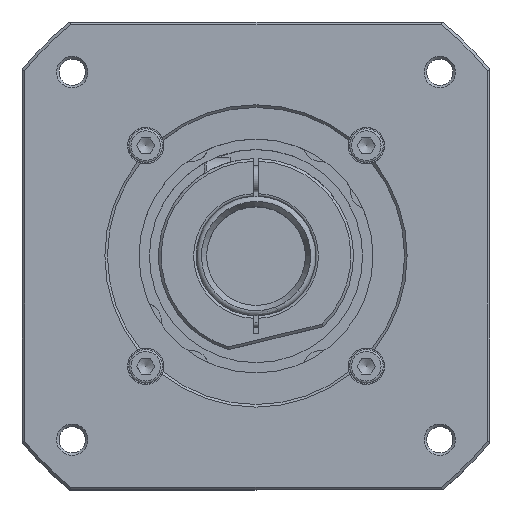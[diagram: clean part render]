
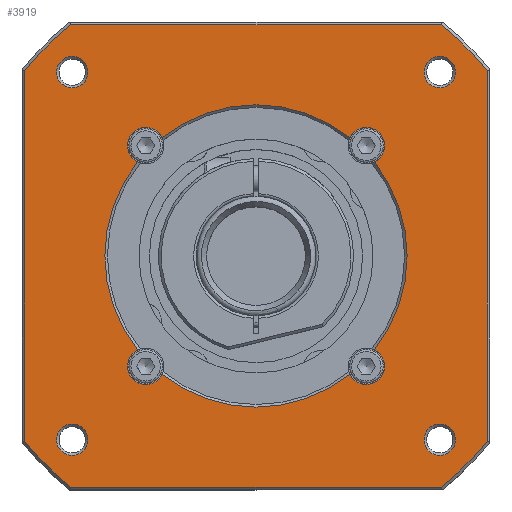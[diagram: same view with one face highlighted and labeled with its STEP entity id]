
A CAD part, top view. The second image highlights one B-rep face of the part: STEP entity #3919.
In plain terms, the highlighted planar face has unit normal (0, 0, 1).
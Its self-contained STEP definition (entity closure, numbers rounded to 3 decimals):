
#3722=CARTESIAN_POINT('',(64.658,70.711,201.85));
#3723=VERTEX_POINT('',#3722);
#3724=CARTESIAN_POINT('',(70.711,70.711,201.85));
#3725=DIRECTION('',(0.0,0.0,1.0));
#3726=DIRECTION('',(1.0,0.0,0.0));
#3727=AXIS2_PLACEMENT_3D('',#3724,#3725,#3726);
#3728=CIRCLE('',#3727,6.053);
#3729=EDGE_CURVE('',#3723,#3723,#3728,.T.);
#3734=CARTESIAN_POINT('',(0.,0.,201.85));
#3735=DIRECTION('',(0.0,0.0,-1.0));
#3736=DIRECTION('',(1.0,0.0,0.0));
#3737=AXIS2_PLACEMENT_3D('',#3734,#3735,#3736);
#3738=PLANE('',#3737);
#3739=CARTESIAN_POINT('',(-71.239,89.,201.85));
#3740=VERTEX_POINT('',#3739);
#3741=CARTESIAN_POINT('',(71.239,89.0,201.85));
#3742=VERTEX_POINT('',#3741);
#3743=CARTESIAN_POINT('',(-71.239,89.,201.85));
#3744=DIRECTION('',(1.0,0.0,0.0));
#3745=VECTOR('',#3744,142.478);
#3746=LINE('',#3743,#3745);
#3747=EDGE_CURVE('',#3740,#3742,#3746,.T.);
#3748=ORIENTED_EDGE('',*,*,#3747,.F.);
#3749=CARTESIAN_POINT('',(-89.,71.239,201.85));
#3750=VERTEX_POINT('',#3749);
#3751=CARTESIAN_POINT('',(0.,0.,201.85));
#3752=DIRECTION('',(0.0,0.0,-1.0));
#3753=DIRECTION('',(-1.0,0.0,0.0));
#3754=AXIS2_PLACEMENT_3D('',#3751,#3752,#3753);
#3755=CIRCLE('',#3754,114.0);
#3756=EDGE_CURVE('',#3750,#3740,#3755,.T.);
#3757=ORIENTED_EDGE('',*,*,#3756,.F.);
#3758=CARTESIAN_POINT('',(-89.,-71.239,201.85));
#3759=VERTEX_POINT('',#3758);
#3760=CARTESIAN_POINT('',(-89.0,-71.239,201.85));
#3761=DIRECTION('',(0.0,1.0,0.0));
#3762=VECTOR('',#3761,142.478);
#3763=LINE('',#3760,#3762);
#3764=EDGE_CURVE('',#3759,#3750,#3763,.T.);
#3765=ORIENTED_EDGE('',*,*,#3764,.F.);
#3766=CARTESIAN_POINT('',(-71.239,-89.,201.85));
#3767=VERTEX_POINT('',#3766);
#3768=CARTESIAN_POINT('',(0.,0.,201.85));
#3769=DIRECTION('',(0.0,0.0,-1.0));
#3770=DIRECTION('',(-1.0,0.0,0.0));
#3771=AXIS2_PLACEMENT_3D('',#3768,#3769,#3770);
#3772=CIRCLE('',#3771,114.0);
#3773=EDGE_CURVE('',#3767,#3759,#3772,.T.);
#3774=ORIENTED_EDGE('',*,*,#3773,.F.);
#3775=CARTESIAN_POINT('',(71.239,-89.,201.85));
#3776=VERTEX_POINT('',#3775);
#3777=CARTESIAN_POINT('',(71.239,-89.0,201.85));
#3778=DIRECTION('',(-1.0,0.0,0.0));
#3779=VECTOR('',#3778,142.478);
#3780=LINE('',#3777,#3779);
#3781=EDGE_CURVE('',#3776,#3767,#3780,.T.);
#3782=ORIENTED_EDGE('',*,*,#3781,.F.);
#3783=CARTESIAN_POINT('',(89.,-71.239,201.85));
#3784=VERTEX_POINT('',#3783);
#3785=CARTESIAN_POINT('',(0.,0.,201.85));
#3786=DIRECTION('',(0.0,0.0,-1.0));
#3787=DIRECTION('',(1.0,0.0,0.0));
#3788=AXIS2_PLACEMENT_3D('',#3785,#3786,#3787);
#3789=CIRCLE('',#3788,114.0);
#3790=EDGE_CURVE('',#3784,#3776,#3789,.T.);
#3791=ORIENTED_EDGE('',*,*,#3790,.F.);
#3792=CARTESIAN_POINT('',(89.0,71.239,201.85));
#3793=VERTEX_POINT('',#3792);
#3794=CARTESIAN_POINT('',(89.0,71.239,201.85));
#3795=DIRECTION('',(0.0,-1.0,0.0));
#3796=VECTOR('',#3795,142.478);
#3797=LINE('',#3794,#3796);
#3798=EDGE_CURVE('',#3793,#3784,#3797,.T.);
#3799=ORIENTED_EDGE('',*,*,#3798,.F.);
#3800=CARTESIAN_POINT('',(0.,0.,201.85));
#3801=DIRECTION('',(0.0,0.0,-1.0));
#3802=DIRECTION('',(1.0,0.0,0.0));
#3803=AXIS2_PLACEMENT_3D('',#3800,#3801,#3802);
#3804=CIRCLE('',#3803,114.0);
#3805=EDGE_CURVE('',#3742,#3793,#3804,.T.);
#3806=ORIENTED_EDGE('',*,*,#3805,.F.);
#3807=EDGE_LOOP('',(#3748,#3757,#3765,#3774,#3782,#3791,#3799,#3806));
#3808=FACE_OUTER_BOUND('',#3807,.T.);
#3809=CARTESIAN_POINT('',(-76.764,70.711,201.85));
#3810=VERTEX_POINT('',#3809);
#3811=CARTESIAN_POINT('',(-70.711,70.711,201.85));
#3812=DIRECTION('',(0.0,0.0,1.0));
#3813=DIRECTION('',(1.0,0.0,0.0));
#3814=AXIS2_PLACEMENT_3D('',#3811,#3812,#3813);
#3815=CIRCLE('',#3814,6.053);
#3816=EDGE_CURVE('',#3810,#3810,#3815,.T.);
#3817=ORIENTED_EDGE('',*,*,#3816,.F.);
#3818=EDGE_LOOP('',(#3817));
#3819=FACE_BOUND('',#3818,.T.);
#3820=CARTESIAN_POINT('',(64.658,-70.711,201.85));
#3821=VERTEX_POINT('',#3820);
#3822=CARTESIAN_POINT('',(70.711,-70.711,201.85));
#3823=DIRECTION('',(0.0,0.0,1.0));
#3824=DIRECTION('',(1.0,0.0,0.0));
#3825=AXIS2_PLACEMENT_3D('',#3822,#3823,#3824);
#3826=CIRCLE('',#3825,6.053);
#3827=EDGE_CURVE('',#3821,#3821,#3826,.T.);
#3828=ORIENTED_EDGE('',*,*,#3827,.F.);
#3829=EDGE_LOOP('',(#3828));
#3830=FACE_BOUND('',#3829,.T.);
#3831=CARTESIAN_POINT('',(-45.542,36.158,201.85));
#3832=VERTEX_POINT('',#3831);
#3833=CARTESIAN_POINT('',(-45.542,-36.158,201.85));
#3834=VERTEX_POINT('',#3833);
#3835=CARTESIAN_POINT('',(0.,0.,201.85));
#3836=DIRECTION('',(0.0,0.0,1.0));
#3837=DIRECTION('',(-1.0,0.0,0.0));
#3838=AXIS2_PLACEMENT_3D('',#3835,#3836,#3837);
#3839=CIRCLE('',#3838,58.15);
#3840=EDGE_CURVE('',#3832,#3834,#3839,.T.);
#3841=ORIENTED_EDGE('',*,*,#3840,.F.);
#3842=CARTESIAN_POINT('',(-36.158,45.542,201.85));
#3843=VERTEX_POINT('',#3842);
#3844=CARTESIAN_POINT('',(-42.426,42.426,201.85));
#3845=DIRECTION('',(0.0,0.0,-1.0));
#3846=DIRECTION('',(-1.0,0.0,0.0));
#3847=AXIS2_PLACEMENT_3D('',#3844,#3845,#3846);
#3848=CIRCLE('',#3847,7.);
#3849=EDGE_CURVE('',#3832,#3843,#3848,.T.);
#3850=ORIENTED_EDGE('',*,*,#3849,.T.);
#3851=CARTESIAN_POINT('',(36.158,45.542,201.85));
#3852=VERTEX_POINT('',#3851);
#3853=CARTESIAN_POINT('',(0.,0.,201.85));
#3854=DIRECTION('',(0.0,0.0,1.0));
#3855=DIRECTION('',(1.0,0.0,0.0));
#3856=AXIS2_PLACEMENT_3D('',#3853,#3854,#3855);
#3857=CIRCLE('',#3856,58.15);
#3858=EDGE_CURVE('',#3852,#3843,#3857,.T.);
#3859=ORIENTED_EDGE('',*,*,#3858,.F.);
#3860=CARTESIAN_POINT('',(45.542,36.158,201.85));
#3861=VERTEX_POINT('',#3860);
#3862=CARTESIAN_POINT('',(42.426,42.426,201.85));
#3863=DIRECTION('',(0.0,0.0,-1.0));
#3864=DIRECTION('',(-1.0,0.0,0.0));
#3865=AXIS2_PLACEMENT_3D('',#3862,#3863,#3864);
#3866=CIRCLE('',#3865,7.);
#3867=EDGE_CURVE('',#3852,#3861,#3866,.T.);
#3868=ORIENTED_EDGE('',*,*,#3867,.T.);
#3869=CARTESIAN_POINT('',(45.542,-36.158,201.85));
#3870=VERTEX_POINT('',#3869);
#3871=CARTESIAN_POINT('',(0.,0.,201.85));
#3872=DIRECTION('',(0.0,0.0,1.0));
#3873=DIRECTION('',(1.0,0.0,0.0));
#3874=AXIS2_PLACEMENT_3D('',#3871,#3872,#3873);
#3875=CIRCLE('',#3874,58.15);
#3876=EDGE_CURVE('',#3870,#3861,#3875,.T.);
#3877=ORIENTED_EDGE('',*,*,#3876,.F.);
#3878=CARTESIAN_POINT('',(36.158,-45.542,201.85));
#3879=VERTEX_POINT('',#3878);
#3880=CARTESIAN_POINT('',(42.426,-42.426,201.85));
#3881=DIRECTION('',(0.0,0.0,-1.0));
#3882=DIRECTION('',(-1.0,0.0,0.0));
#3883=AXIS2_PLACEMENT_3D('',#3880,#3881,#3882);
#3884=CIRCLE('',#3883,7.);
#3885=EDGE_CURVE('',#3870,#3879,#3884,.T.);
#3886=ORIENTED_EDGE('',*,*,#3885,.T.);
#3887=CARTESIAN_POINT('',(-36.158,-45.542,201.85));
#3888=VERTEX_POINT('',#3887);
#3889=CARTESIAN_POINT('',(0.,0.,201.85));
#3890=DIRECTION('',(0.0,0.0,1.0));
#3891=DIRECTION('',(1.0,0.0,0.0));
#3892=AXIS2_PLACEMENT_3D('',#3889,#3890,#3891);
#3893=CIRCLE('',#3892,58.15);
#3894=EDGE_CURVE('',#3888,#3879,#3893,.T.);
#3895=ORIENTED_EDGE('',*,*,#3894,.F.);
#3896=CARTESIAN_POINT('',(-42.426,-42.426,201.85));
#3897=DIRECTION('',(0.0,0.0,-1.0));
#3898=DIRECTION('',(-1.0,0.0,0.0));
#3899=AXIS2_PLACEMENT_3D('',#3896,#3897,#3898);
#3900=CIRCLE('',#3899,7.);
#3901=EDGE_CURVE('',#3888,#3834,#3900,.T.);
#3902=ORIENTED_EDGE('',*,*,#3901,.T.);
#3903=EDGE_LOOP('',(#3841,#3850,#3859,#3868,#3877,#3886,#3895,#3902));
#3904=FACE_BOUND('',#3903,.T.);
#3905=CARTESIAN_POINT('',(-76.764,-70.711,201.85));
#3906=VERTEX_POINT('',#3905);
#3907=CARTESIAN_POINT('',(-70.711,-70.711,201.85));
#3908=DIRECTION('',(0.0,0.0,1.0));
#3909=DIRECTION('',(1.0,0.0,0.0));
#3910=AXIS2_PLACEMENT_3D('',#3907,#3908,#3909);
#3911=CIRCLE('',#3910,6.053);
#3912=EDGE_CURVE('',#3906,#3906,#3911,.T.);
#3913=ORIENTED_EDGE('',*,*,#3912,.F.);
#3914=EDGE_LOOP('',(#3913));
#3915=FACE_BOUND('',#3914,.T.);
#3916=ORIENTED_EDGE('',*,*,#3729,.F.);
#3917=EDGE_LOOP('',(#3916));
#3918=FACE_BOUND('',#3917,.T.);
#3919=ADVANCED_FACE('',(#3808,#3819,#3830,#3904,#3915,#3918),#3738,.F.);
